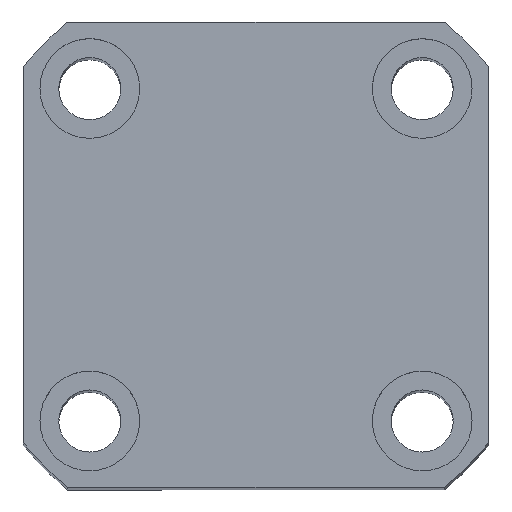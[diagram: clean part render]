
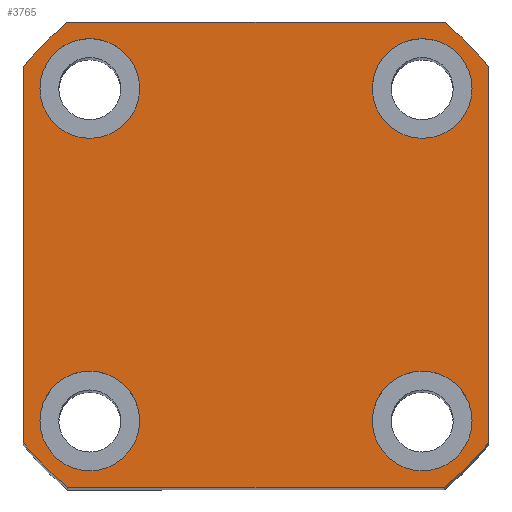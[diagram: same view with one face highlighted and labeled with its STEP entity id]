
A CAD part, top view. The second image highlights one B-rep face of the part: STEP entity #3765.
In plain terms, the highlighted planar face has unit normal (0, 0, 1).
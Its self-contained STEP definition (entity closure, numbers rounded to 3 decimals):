
#7 = EDGE_CURVE ( 'NONE', #2040, #13434, #1803, .T. ) ;
#221 = CARTESIAN_POINT ( 'NONE',  ( -19.5, 15.002, 133. ) ) ;
#331 = FACE_BOUND ( 'NONE', #10243, .T. ) ;
#372 = VERTEX_POINT ( 'NONE', #12489 ) ;
#450 = DIRECTION ( 'NONE',  ( 1., 0., 0. ) ) ;
#502 = DIRECTION ( 'NONE',  ( 0., 0., 1. ) ) ;
#712 = CARTESIAN_POINT ( 'NONE',  ( -19.5, -14.998, 133. ) ) ;
#738 = ORIENTED_EDGE ( 'NONE', *, *, #13080, .T. ) ;
#840 = AXIS2_PLACEMENT_3D ( 'NONE', #11020, #502, #1146 ) ;
#905 = CARTESIAN_POINT ( 'NONE',  ( 19.5, 15., 133. ) ) ;
#987 = DIRECTION ( 'NONE',  ( 1., 0., 0. ) ) ;
#1025 = VERTEX_POINT ( 'NONE', #11041 ) ;
#1046 = DIRECTION ( 'NONE',  ( 0., 0., 1. ) ) ;
#1146 = DIRECTION ( 'NONE',  ( 1., 0., 0. ) ) ;
#1170 = DIRECTION ( 'NONE',  ( 1., 0., 0. ) ) ;
#1179 = VERTEX_POINT ( 'NONE', #6967 ) ;
#1554 = AXIS2_PLACEMENT_3D ( 'NONE', #13831, #7258, #987 ) ;
#1695 = CARTESIAN_POINT ( 'NONE',  ( -15., -14.998, 133. ) ) ;
#1719 = CARTESIAN_POINT ( 'NONE',  ( 0., 0., 133. ) ) ;
#1773 = CIRCLE ( 'NONE', #840, 4.5 ) ;
#1803 = CIRCLE ( 'NONE', #5883, 4.5 ) ;
#1804 = EDGE_CURVE ( 'NONE', #1025, #12072, #1773, .T. ) ;
#1923 = VECTOR ( 'NONE', #5053, 1000. ) ;
#2040 = VERTEX_POINT ( 'NONE', #13823 ) ;
#2436 = CIRCLE ( 'NONE', #2446, 4.5 ) ;
#2446 = AXIS2_PLACEMENT_3D ( 'NONE', #5724, #13341, #6803 ) ;
#2482 = DIRECTION ( 'NONE',  ( 0., 0., 1. ) ) ;
#2491 = AXIS2_PLACEMENT_3D ( 'NONE', #5970, #13603, #7050 ) ;
#2585 = LINE ( 'NONE', #11571, #1923 ) ;
#2599 = CARTESIAN_POINT ( 'NONE',  ( 21., -16.971, 133. ) ) ;
#2686 = ORIENTED_EDGE ( 'NONE', *, *, #10723, .T. ) ;
#2744 = DIRECTION ( 'NONE',  ( 1., 0., 0. ) ) ;
#2761 = EDGE_CURVE ( 'NONE', #13420, #8260, #13494, .T. ) ;
#2770 = DIRECTION ( 'NONE',  ( 1., 0., 0. ) ) ;
#2796 = CARTESIAN_POINT ( 'NONE',  ( 10.5, -14.998, 133. ) ) ;
#2911 = LINE ( 'NONE', #6518, #5315 ) ;
#3151 = FACE_BOUND ( 'NONE', #12382, .T. ) ;
#3377 = EDGE_CURVE ( 'NONE', #13405, #6771, #2585, .T. ) ;
#3401 = LINE ( 'NONE', #7328, #11631 ) ;
#3454 = ORIENTED_EDGE ( 'NONE', *, *, #11375, .T. ) ;
#3540 = CIRCLE ( 'NONE', #12803, 4.5 ) ;
#3765 = ADVANCED_FACE ( 'NONE', ( #5878, #10129, #3151, #331, #11704 ), #9611, .T. ) ;
#3815 = DIRECTION ( 'NONE',  ( 0., 0., 1. ) ) ;
#3965 = VERTEX_POINT ( 'NONE', #2599 ) ;
#4090 = CARTESIAN_POINT ( 'NONE',  ( -21., -16.971, 133. ) ) ;
#4136 = AXIS2_PLACEMENT_3D ( 'NONE', #1719, #9104, #2770 ) ;
#4204 = AXIS2_PLACEMENT_3D ( 'NONE', #10715, #7444, #1170 ) ;
#4218 = LINE ( 'NONE', #5642, #12463 ) ;
#4365 = CARTESIAN_POINT ( 'NONE',  ( 19.5, -14.998, 133. ) ) ;
#4753 = EDGE_CURVE ( 'NONE', #1179, #3965, #6210, .T. ) ;
#4948 = VERTEX_POINT ( 'NONE', #712 ) ;
#5053 = DIRECTION ( 'NONE',  ( 0., -1., 0. ) ) ;
#5061 = ORIENTED_EDGE ( 'NONE', *, *, #3377, .T. ) ;
#5315 = VECTOR ( 'NONE', #9799, 1000. ) ;
#5537 = ORIENTED_EDGE ( 'NONE', *, *, #7290, .F. ) ;
#5642 = CARTESIAN_POINT ( 'NONE',  ( -21., -21., 133. ) ) ;
#5713 = EDGE_LOOP ( 'NONE', ( #3454, #10648, #2686, #738, #5061, #9804, #13717, #9975 ) ) ;
#5724 = CARTESIAN_POINT ( 'NONE',  ( -15., -14.998, 133. ) ) ;
#5878 = FACE_BOUND ( 'NONE', #10997, .T. ) ;
#5883 = AXIS2_PLACEMENT_3D ( 'NONE', #10396, #11931, #11252 ) ;
#5928 = DIRECTION ( 'NONE',  ( 0., 0., 1. ) ) ;
#5970 = CARTESIAN_POINT ( 'NONE',  ( 0., 0., 133. ) ) ;
#5998 = CIRCLE ( 'NONE', #1554, 4.5 ) ;
#6135 = CIRCLE ( 'NONE', #4136, 27. ) ;
#6155 = EDGE_CURVE ( 'NONE', #9966, #6403, #9230, .T. ) ;
#6210 = CIRCLE ( 'NONE', #9368, 27. ) ;
#6292 = CIRCLE ( 'NONE', #2491, 27. ) ;
#6403 = VERTEX_POINT ( 'NONE', #7732 ) ;
#6518 = CARTESIAN_POINT ( 'NONE',  ( 21., 21., 133. ) ) ;
#6725 = DIRECTION ( 'NONE',  ( 0., 0., 1. ) ) ;
#6771 = VERTEX_POINT ( 'NONE', #4090 ) ;
#6803 = DIRECTION ( 'NONE',  ( 1., 0., 0. ) ) ;
#6869 = EDGE_LOOP ( 'NONE', ( #8448, #8392 ) ) ;
#6967 = CARTESIAN_POINT ( 'NONE',  ( 16.971, -21., 133. ) ) ;
#7050 = DIRECTION ( 'NONE',  ( 1., 0., 0. ) ) ;
#7172 = ORIENTED_EDGE ( 'NONE', *, *, #2761, .F. ) ;
#7258 = DIRECTION ( 'NONE',  ( 0., 0., 1. ) ) ;
#7290 = EDGE_CURVE ( 'NONE', #13434, #2040, #5998, .T. ) ;
#7313 = CARTESIAN_POINT ( 'NONE',  ( 0., 0., 133. ) ) ;
#7328 = CARTESIAN_POINT ( 'NONE',  ( -21., 21., 133. ) ) ;
#7394 = ORIENTED_EDGE ( 'NONE', *, *, #13017, .F. ) ;
#7444 = DIRECTION ( 'NONE',  ( 0., 0., 1. ) ) ;
#7558 = CARTESIAN_POINT ( 'NONE',  ( -21., 16.971, 133. ) ) ;
#7732 = CARTESIAN_POINT ( 'NONE',  ( 16.971, 21., 133. ) ) ;
#8034 = EDGE_CURVE ( 'NONE', #4948, #372, #2436, .T. ) ;
#8048 = AXIS2_PLACEMENT_3D ( 'NONE', #13261, #6725, #450 ) ;
#8049 = AXIS2_PLACEMENT_3D ( 'NONE', #1695, #9076, #2744 ) ;
#8055 = VERTEX_POINT ( 'NONE', #12254 ) ;
#8195 = EDGE_CURVE ( 'NONE', #372, #4948, #12477, .T. ) ;
#8260 = VERTEX_POINT ( 'NONE', #2796 ) ;
#8392 = ORIENTED_EDGE ( 'NONE', *, *, #8034, .F. ) ;
#8407 = CARTESIAN_POINT ( 'NONE',  ( -16.971, -21., 133. ) ) ;
#8422 = DIRECTION ( 'NONE',  ( 1., 0., 0. ) ) ;
#8441 = DIRECTION ( 'NONE',  ( -1., 0., 0. ) ) ;
#8448 = ORIENTED_EDGE ( 'NONE', *, *, #8195, .F. ) ;
#8798 = CARTESIAN_POINT ( 'NONE',  ( 0., 0., 133. ) ) ;
#9076 = DIRECTION ( 'NONE',  ( 0., 0., 1. ) ) ;
#9104 = DIRECTION ( 'NONE',  ( 0., 0., 1. ) ) ;
#9230 = CIRCLE ( 'NONE', #13384, 27. ) ;
#9368 = AXIS2_PLACEMENT_3D ( 'NONE', #8798, #2482, #9904 ) ;
#9606 = EDGE_CURVE ( 'NONE', #6771, #12559, #6135, .T. ) ;
#9611 = PLANE ( 'NONE',  #4204 ) ;
#9799 = DIRECTION ( 'NONE',  ( 0., 1., 0. ) ) ;
#9804 = ORIENTED_EDGE ( 'NONE', *, *, #9606, .T. ) ;
#9904 = DIRECTION ( 'NONE',  ( 1., 0., 0. ) ) ;
#9966 = VERTEX_POINT ( 'NONE', #11994 ) ;
#9975 = ORIENTED_EDGE ( 'NONE', *, *, #4753, .T. ) ;
#10129 = FACE_BOUND ( 'NONE', #6869, .T. ) ;
#10198 = CARTESIAN_POINT ( 'NONE',  ( 15., 15., 133. ) ) ;
#10243 = EDGE_LOOP ( 'NONE', ( #12345, #12927 ) ) ;
#10396 = CARTESIAN_POINT ( 'NONE',  ( -15., 15.002, 133. ) ) ;
#10648 = ORIENTED_EDGE ( 'NONE', *, *, #6155, .T. ) ;
#10715 = CARTESIAN_POINT ( 'NONE',  ( 0., 0., 133. ) ) ;
#10723 = EDGE_CURVE ( 'NONE', #6403, #8055, #3401, .T. ) ;
#10997 = EDGE_LOOP ( 'NONE', ( #11351, #5537 ) ) ;
#11020 = CARTESIAN_POINT ( 'NONE',  ( 15., 15., 133. ) ) ;
#11041 = CARTESIAN_POINT ( 'NONE',  ( 10.5, 15., 133. ) ) ;
#11096 = EDGE_CURVE ( 'NONE', #12072, #1025, #12798, .T. ) ;
#11107 = EDGE_CURVE ( 'NONE', #12559, #1179, #4218, .T. ) ;
#11135 = DIRECTION ( 'NONE',  ( 1., 0., 0. ) ) ;
#11252 = DIRECTION ( 'NONE',  ( 1., 0., 0. ) ) ;
#11325 = DIRECTION ( 'NONE',  ( 1., 0., 0. ) ) ;
#11351 = ORIENTED_EDGE ( 'NONE', *, *, #7, .F. ) ;
#11375 = EDGE_CURVE ( 'NONE', #3965, #9966, #2911, .T. ) ;
#11571 = CARTESIAN_POINT ( 'NONE',  ( -21., 21., 133. ) ) ;
#11631 = VECTOR ( 'NONE', #8441, 1000. ) ;
#11704 = FACE_OUTER_BOUND ( 'NONE', #5713, .T. ) ;
#11931 = DIRECTION ( 'NONE',  ( 0., 0., 1. ) ) ;
#11981 = AXIS2_PLACEMENT_3D ( 'NONE', #10198, #3815, #11325 ) ;
#11994 = CARTESIAN_POINT ( 'NONE',  ( 21., 16.971, 133. ) ) ;
#12072 = VERTEX_POINT ( 'NONE', #905 ) ;
#12254 = CARTESIAN_POINT ( 'NONE',  ( -16.971, 21., 133. ) ) ;
#12345 = ORIENTED_EDGE ( 'NONE', *, *, #11096, .F. ) ;
#12382 = EDGE_LOOP ( 'NONE', ( #7172, #7394 ) ) ;
#12463 = VECTOR ( 'NONE', #11135, 1000. ) ;
#12465 = CARTESIAN_POINT ( 'NONE',  ( 15., -14.998, 133. ) ) ;
#12477 = CIRCLE ( 'NONE', #8049, 4.5 ) ;
#12489 = CARTESIAN_POINT ( 'NONE',  ( -10.5, -14.998, 133. ) ) ;
#12559 = VERTEX_POINT ( 'NONE', #8407 ) ;
#12798 = CIRCLE ( 'NONE', #11981, 4.5 ) ;
#12803 = AXIS2_PLACEMENT_3D ( 'NONE', #12465, #5928, #13561 ) ;
#12927 = ORIENTED_EDGE ( 'NONE', *, *, #1804, .F. ) ;
#13017 = EDGE_CURVE ( 'NONE', #8260, #13420, #3540, .T. ) ;
#13080 = EDGE_CURVE ( 'NONE', #8055, #13405, #6292, .T. ) ;
#13261 = CARTESIAN_POINT ( 'NONE',  ( 15., -14.998, 133. ) ) ;
#13341 = DIRECTION ( 'NONE',  ( 0., 0., 1. ) ) ;
#13384 = AXIS2_PLACEMENT_3D ( 'NONE', #7313, #1046, #8422 ) ;
#13405 = VERTEX_POINT ( 'NONE', #7558 ) ;
#13420 = VERTEX_POINT ( 'NONE', #4365 ) ;
#13434 = VERTEX_POINT ( 'NONE', #221 ) ;
#13494 = CIRCLE ( 'NONE', #8048, 4.5 ) ;
#13561 = DIRECTION ( 'NONE',  ( 1., 0., 0. ) ) ;
#13603 = DIRECTION ( 'NONE',  ( 0., 0., 1. ) ) ;
#13717 = ORIENTED_EDGE ( 'NONE', *, *, #11107, .T. ) ;
#13823 = CARTESIAN_POINT ( 'NONE',  ( -10.5, 15.002, 133. ) ) ;
#13831 = CARTESIAN_POINT ( 'NONE',  ( -15., 15.002, 133. ) ) ;
